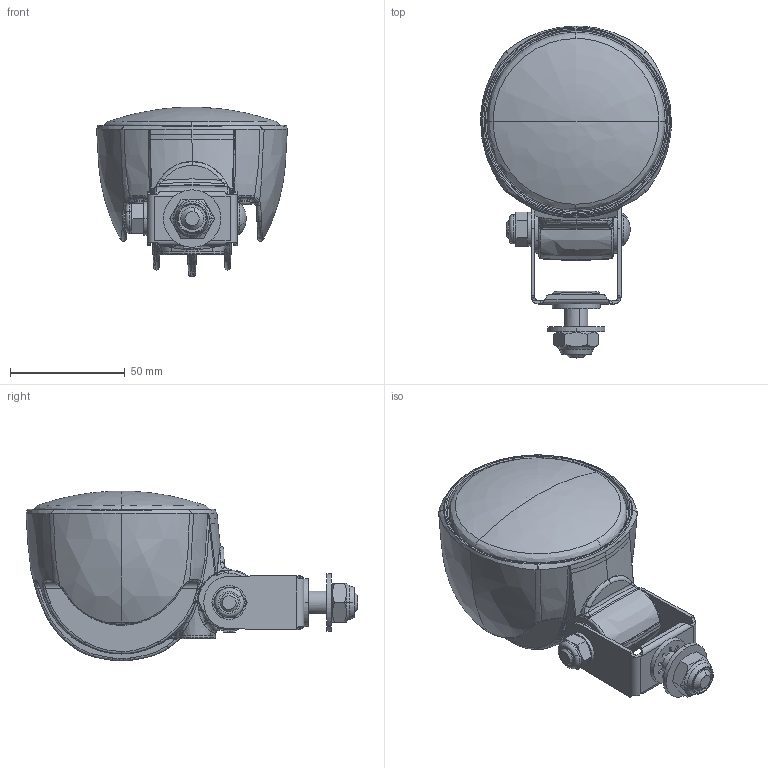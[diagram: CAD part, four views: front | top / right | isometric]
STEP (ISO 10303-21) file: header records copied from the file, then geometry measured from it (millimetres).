
FILE_DESCRIPTION(('CATIA V5 STEP Exchange','CAx-IF Rec.Pracs.--- Model Styling and Organization---1.5--- 2016-08-15','CAx-IF Rec.Pracs.---Supplemental Geometry---1.0---2011-11-01','CAx-IF Rec.Pracs.--- Composite Materials ---1.1---2010-07-15'),'2;1');
FILE_NAME('E:\tmp\ddx\2011218\HELLA_3D_data_Module_70_LED_Gen_3-2_2ZR-996-376-09.stp','2022-01-18T07:30:56+00:00',('none'),('none'),'CATIA Version 5-6 Release 2020 SP3 HF9','CATIA V5 STEP AP214 Edition 3 v2','none');
FILE_SCHEMA(('AUTOMOTIVE_DESIGN { 1 0 10303 214 3 1 1 1 }'));
Products named in the file (1): 10001325934_D10_001
Bounding box: 83.01 x 144.35 x 73.84 mm (x, y, z)
Volume: 260290.8 mm3; surface area: 49385.9 mm2
Topology: 2 solids, 3 shells, 1058 faces, 2630 edges, 1550 vertices
Faces by surface type: bspline 513, plane 184, cylinder 141, cone 113, torus 85, sphere 20, extrusion 2
Entity records: 57073 total; most frequent: CARTESIAN_POINT 37494, ORIENTED_EDGE 5184, EDGE_CURVE 2592, DIRECTION 1856, B_SPLINE_CURVE_WITH_KNOTS 1562, VERTEX_POINT 1550, EDGE_LOOP 1098, ADVANCED_FACE 1058
